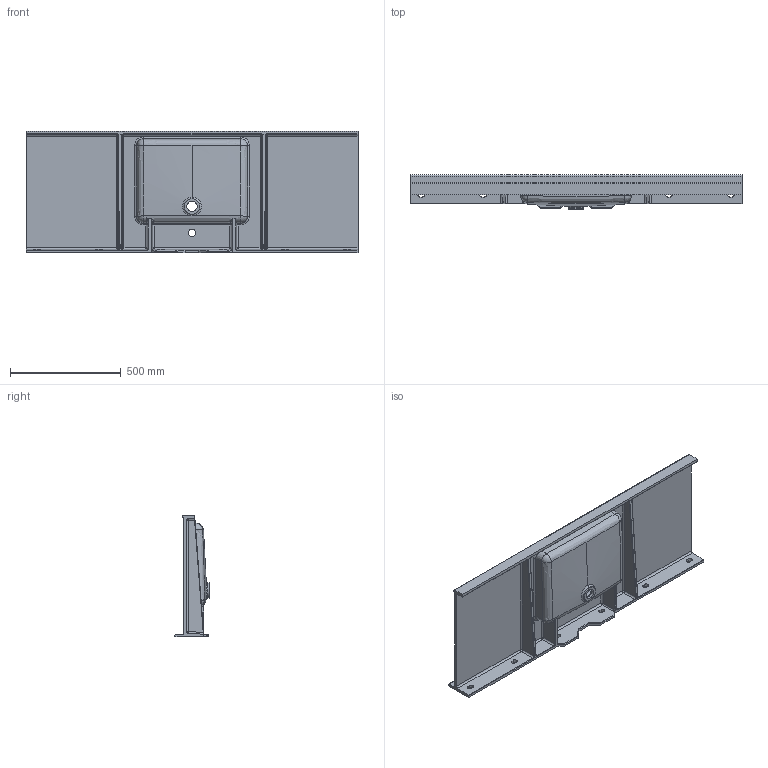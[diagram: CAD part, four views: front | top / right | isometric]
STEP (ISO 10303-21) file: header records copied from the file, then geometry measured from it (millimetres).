
FILE_DESCRIPTION (( 'STEP AP203' ), '1' );
FILE_NAME ('Jerico550.STEP', '2025-01-14T15:19:59', ( '' ), ( '' ), 'SwSTEP 2.0', 'SolidWorks 2021', '' );
FILE_SCHEMA (( 'CONFIG_CONTROL_DESIGN' ));
Products named in the file (1): Jerico550
Bounding box: 1500 x 154 x 550 mm (x, y, z)
Volume: 15983904.3 mm3; surface area: 2500490 mm2
Topology: 1 solids, 1 shells, 258 faces, 647 edges, 363 vertices
Faces by surface type: cylinder 98, plane 63, bspline 52, sphere 17, torus 14, cone 14
Entity records: 30276 total; most frequent: CARTESIAN_POINT 24671, ORIENTED_EDGE 1238, DIRECTION 1065, EDGE_CURVE 619, AXIS2_PLACEMENT_3D 398, VERTEX_POINT 363, EDGE_LOOP 274, LINE 269
